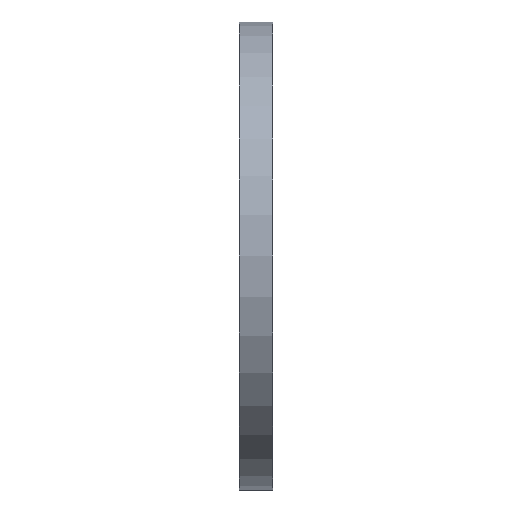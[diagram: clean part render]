
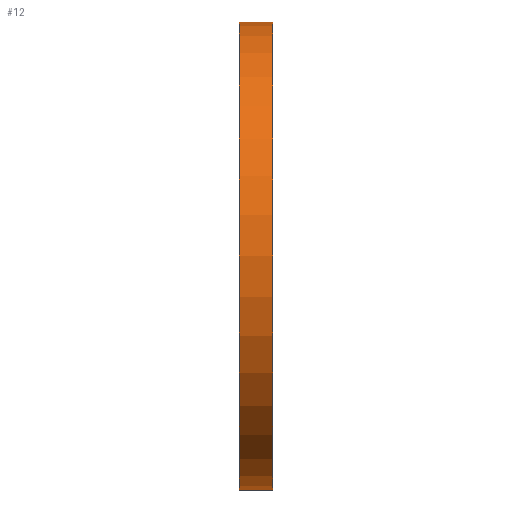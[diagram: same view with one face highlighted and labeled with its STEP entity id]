
A CAD part, left-side view. The second image highlights one B-rep face of the part: STEP entity #12.
In plain terms, the highlighted cylindrical face has radius 170 mm (diameter 340 mm), a partial arc.
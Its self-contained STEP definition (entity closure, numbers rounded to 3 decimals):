
#12 = ADVANCED_FACE ( 'NONE', ( #234 ), #29, .T. ) ;
#29 = CYLINDRICAL_SURFACE ( 'NONE', #792, 170. ) ;
#56 = CIRCLE ( 'NONE', #796, 170. ) ;
#67 = VERTEX_POINT ( 'NONE', #375 ) ;
#135 = LINE ( 'NONE', #269, #475 ) ;
#160 = DIRECTION ( 'NONE',  ( 0., 0., 1. ) ) ;
#169 = DIRECTION ( 'NONE',  ( 0., 0., 1. ) ) ;
#178 = VERTEX_POINT ( 'NONE', #243 ) ;
#185 = EDGE_CURVE ( 'NONE', #266, #774, #56, .T. ) ;
#218 = EDGE_CURVE ( 'NONE', #774, #67, #248, .T. ) ;
#221 = EDGE_LOOP ( 'NONE', ( #391, #827, #884, #512 ) ) ;
#232 = EDGE_CURVE ( 'NONE', #266, #178, #135, .T. ) ;
#234 = FACE_OUTER_BOUND ( 'NONE', #221, .T. ) ;
#238 = CARTESIAN_POINT ( 'NONE',  ( 0., 0., 0. ) ) ;
#243 = CARTESIAN_POINT ( 'NONE',  ( 0., 24., -170. ) ) ;
#248 = LINE ( 'NONE', #473, #357 ) ;
#266 = VERTEX_POINT ( 'NONE', #558 ) ;
#269 = CARTESIAN_POINT ( 'NONE',  ( 0., 34.695, -170. ) ) ;
#354 = CARTESIAN_POINT ( 'NONE',  ( 0., 24., 0. ) ) ;
#357 = VECTOR ( 'NONE', #485, 1000. ) ;
#375 = CARTESIAN_POINT ( 'NONE',  ( 0., 24., 170. ) ) ;
#391 = ORIENTED_EDGE ( 'NONE', *, *, #232, .F. ) ;
#420 = DIRECTION ( 'NONE',  ( 0., 1., 0. ) ) ;
#426 = AXIS2_PLACEMENT_3D ( 'NONE', #354, #583, #169 ) ;
#452 = CIRCLE ( 'NONE', #426, 170. ) ;
#473 = CARTESIAN_POINT ( 'NONE',  ( 0., 34.695, 170. ) ) ;
#475 = VECTOR ( 'NONE', #420, 1000. ) ;
#485 = DIRECTION ( 'NONE',  ( 0., 1., 0. ) ) ;
#512 = ORIENTED_EDGE ( 'NONE', *, *, #887, .F. ) ;
#558 = CARTESIAN_POINT ( 'NONE',  ( 0., 0., -170. ) ) ;
#583 = DIRECTION ( 'NONE',  ( 0., 1., 0. ) ) ;
#588 = CARTESIAN_POINT ( 'NONE',  ( 0., 34.695, 0. ) ) ;
#610 = DIRECTION ( 'NONE',  ( 0., 0., 1. ) ) ;
#680 = DIRECTION ( 'NONE',  ( 0., 1., 0. ) ) ;
#695 = CARTESIAN_POINT ( 'NONE',  ( 0., 0., 170. ) ) ;
#774 = VERTEX_POINT ( 'NONE', #695 ) ;
#792 = AXIS2_PLACEMENT_3D ( 'NONE', #588, #862, #160 ) ;
#796 = AXIS2_PLACEMENT_3D ( 'NONE', #238, #680, #610 ) ;
#827 = ORIENTED_EDGE ( 'NONE', *, *, #185, .T. ) ;
#862 = DIRECTION ( 'NONE',  ( 0., 1., 0. ) ) ;
#884 = ORIENTED_EDGE ( 'NONE', *, *, #218, .T. ) ;
#887 = EDGE_CURVE ( 'NONE', #178, #67, #452, .T. ) ;
